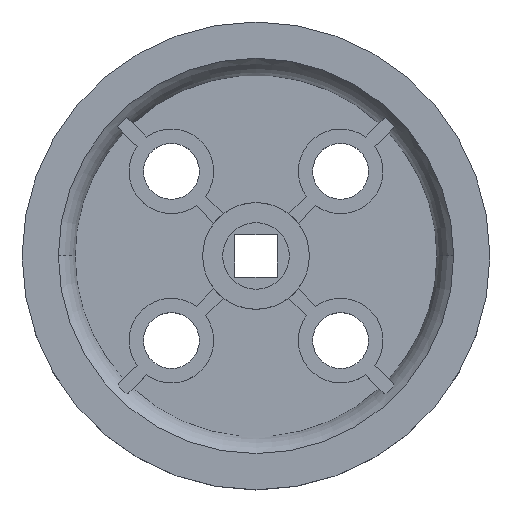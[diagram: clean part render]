
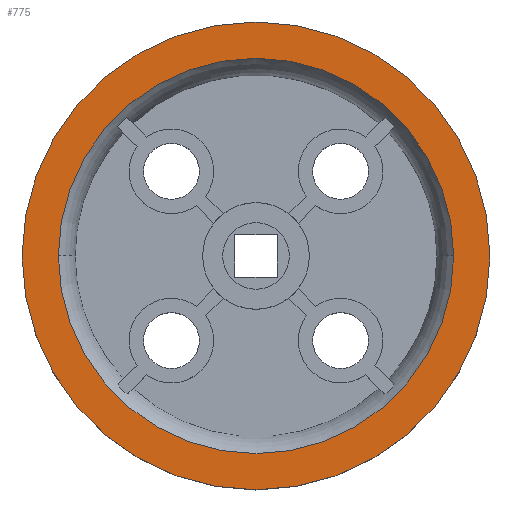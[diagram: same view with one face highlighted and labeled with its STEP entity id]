
A CAD part, top view. The second image highlights one B-rep face of the part: STEP entity #775.
In plain terms, the highlighted planar face has unit normal (0, 0, 1).
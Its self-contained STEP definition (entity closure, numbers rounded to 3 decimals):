
#188 = DIRECTION ( 'NONE',  ( 0., 0., 1. ) ) ;
#236 = ORIENTED_EDGE ( 'NONE', *, *, #3273, .F. ) ;
#250 = DIRECTION ( 'NONE',  ( 0., 0., -1. ) ) ;
#274 = CARTESIAN_POINT ( 'NONE',  ( 0., 0., 3. ) ) ;
#309 = AXIS2_PLACEMENT_3D ( 'NONE', #1248, #3292, #1833 ) ;
#437 = CIRCLE ( 'NONE', #2143, 14.829 ) ;
#529 = CARTESIAN_POINT ( 'NONE',  ( -17.55, 0., 3. ) ) ;
#713 = ORIENTED_EDGE ( 'NONE', *, *, #1701, .F. ) ;
#775 = ADVANCED_FACE ( 'NONE', ( #3171, #3772 ), #851, .F. ) ;
#851 = PLANE ( 'NONE',  #3008 ) ;
#933 = CIRCLE ( 'NONE', #3073, 17.55 ) ;
#1077 = CARTESIAN_POINT ( 'NONE',  ( 14.829, 0., 3. ) ) ;
#1184 = CIRCLE ( 'NONE', #3321, 14.829 ) ;
#1203 = EDGE_CURVE ( 'NONE', #1307, #3381, #2204, .T. ) ;
#1248 = CARTESIAN_POINT ( 'NONE',  ( 0., 0., 3. ) ) ;
#1280 = EDGE_LOOP ( 'NONE', ( #236, #713 ) ) ;
#1307 = VERTEX_POINT ( 'NONE', #529 ) ;
#1426 = CARTESIAN_POINT ( 'NONE',  ( -14.829, 0., 3. ) ) ;
#1616 = ORIENTED_EDGE ( 'NONE', *, *, #1203, .T. ) ;
#1701 = EDGE_CURVE ( 'NONE', #1747, #2121, #1184, .T. ) ;
#1709 = CARTESIAN_POINT ( 'NONE',  ( 0., 17.55, 3. ) ) ;
#1747 = VERTEX_POINT ( 'NONE', #1426 ) ;
#1833 = DIRECTION ( 'NONE',  ( 1., 0., 0. ) ) ;
#1836 = CARTESIAN_POINT ( 'NONE',  ( 0., 0., 3. ) ) ;
#1878 = DIRECTION ( 'NONE',  ( 0., 0., 1. ) ) ;
#1940 = DIRECTION ( 'NONE',  ( 1., 0., 0. ) ) ;
#2121 = VERTEX_POINT ( 'NONE', #1077 ) ;
#2131 = CARTESIAN_POINT ( 'NONE',  ( 0., 0., 3. ) ) ;
#2143 = AXIS2_PLACEMENT_3D ( 'NONE', #1836, #1878, #3041 ) ;
#2204 = CIRCLE ( 'NONE', #309, 17.55 ) ;
#2255 = EDGE_LOOP ( 'NONE', ( #3266, #1616 ) ) ;
#2283 = DIRECTION ( 'NONE',  ( -1., 0., 0. ) ) ;
#2421 = DIRECTION ( 'NONE',  ( 1., 0., 0. ) ) ;
#3008 = AXIS2_PLACEMENT_3D ( 'NONE', #1709, #250, #2283 ) ;
#3041 = DIRECTION ( 'NONE',  ( 1., 0., 0. ) ) ;
#3073 = AXIS2_PLACEMENT_3D ( 'NONE', #2131, #3551, #2421 ) ;
#3171 = FACE_BOUND ( 'NONE', #1280, .T. ) ;
#3266 = ORIENTED_EDGE ( 'NONE', *, *, #3642, .T. ) ;
#3273 = EDGE_CURVE ( 'NONE', #2121, #1747, #437, .T. ) ;
#3292 = DIRECTION ( 'NONE',  ( 0., 0., 1. ) ) ;
#3321 = AXIS2_PLACEMENT_3D ( 'NONE', #274, #188, #1940 ) ;
#3381 = VERTEX_POINT ( 'NONE', #3705 ) ;
#3551 = DIRECTION ( 'NONE',  ( 0., 0., 1. ) ) ;
#3642 = EDGE_CURVE ( 'NONE', #3381, #1307, #933, .T. ) ;
#3705 = CARTESIAN_POINT ( 'NONE',  ( 17.55, 0., 3. ) ) ;
#3772 = FACE_OUTER_BOUND ( 'NONE', #2255, .T. ) ;
